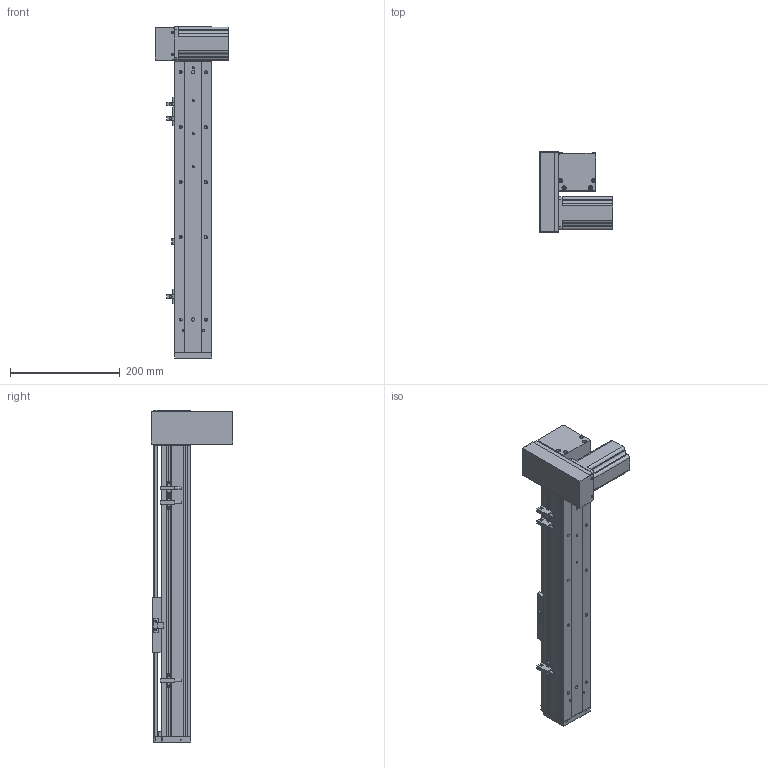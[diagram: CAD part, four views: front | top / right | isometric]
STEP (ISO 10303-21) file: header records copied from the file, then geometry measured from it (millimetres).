
FILE_DESCRIPTION (( 'STEP AP203' ), '1' );
FILE_NAME ('ML68-S350-DR.STEP', '2016-08-05T00:43:18', ( '' ), ( '' ), 'SwSTEP 2.0', 'SolidWorks 2014', '' );
FILE_SCHEMA (( 'CONFIG_CONTROL_DESIGN' ));
Length unit declared in the file: millimetre
Products named in the file (12): QS68酘衵殏萇儂啣; ML68-S350-DR; ML68滅鳥啣盓傅輸; 60換覜結え; 換覜ん; ML68傷啣; ML68雄赽釱; 葩璃 ML68菁釱^ML68-S350-DR; ML68-BL傷啣; 三协电机MH201N2_預設; QS68左右折电机板罩子; ML68奻裔^ML68-S350-DR
Assembly tree (13 placements, depth 2):
  ML68-S350-DR
    葩璃 ML68菁釱^ML68-S350-DR
    ML68奻裔^ML68-S350-DR
    ML68傷啣
    ML68-BL傷啣
    60換覜結え
    換覜ん  x3
    三协电机MH201N2_預設
    ML68雄赽釱
    QS68酘衵殏萇儂啣
    QS68左右折电机板罩子
    ML68滅鳥啣盓傅輸
Bounding box: 133.5 x 148 x 604 mm (x, y, z)
Volume: 1375379.8 mm3; surface area: 480911.5 mm2
Topology: 13 solids, 13 shells, 869 faces, 2376 edges, 1505 vertices
Faces by surface type: cylinder 392, plane 381, cone 96
Entity records: 27324 total; most frequent: CARTESIAN_POINT 5090, DIRECTION 4494, ORIENTED_EDGE 4252, EDGE_CURVE 2126, AXIS2_PLACEMENT_3D 1617, VERTEX_POINT 1393, VECTOR 1260, LINE 1260
